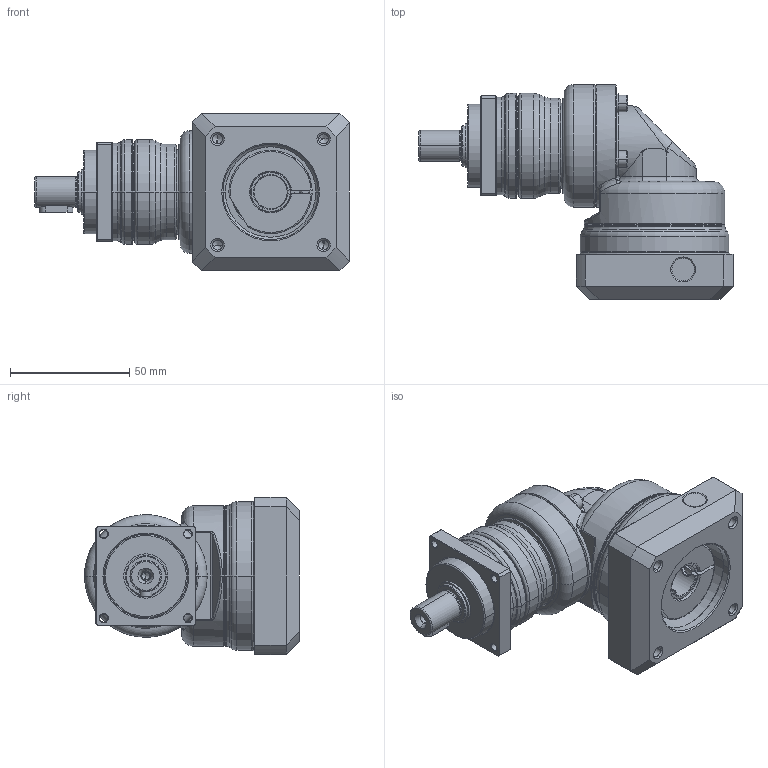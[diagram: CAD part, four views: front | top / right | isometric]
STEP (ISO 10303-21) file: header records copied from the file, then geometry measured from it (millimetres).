
FILE_DESCRIPTION((''),'2;1');
FILE_NAME('PA2R-042_1ST_14-P0411300101_ASM','2016-05-12T',('d01943'),(''),'PRO/ENGINEER BY PARAMETRIC TECHNOLOGY CORPORATION, 2008410','PRO/ENGINEER BY PARAMETRIC TECHNOLOGY CORPORATION, 2008410','');
FILE_SCHEMA(('CONFIG_CONTROL_DESIGN'));
Length unit declared in the file: millimetre
Products named in the file (12): P1327100001; P0250100001; P0350100601; P1349100001; P1017100001; P0713102001; P0503300005; P1350100201; P0411300101; P1702300001; 2111B104015; PA2R-042_1ST_14-P0411300101_ASM
Assembly tree (14 placements, depth 2):
  PA2R-042_1ST_14-P0411300101_ASM
    P1327100001
    P0250100001
    P0350100601
    P1349100001
    P1017100001
    P0713102001
    P0503300005
    P1350100201
    P0411300101
    P1702300001
    2111B104015  x4
Bounding box: 132 x 90.25 x 66 mm (x, y, z)
Volume: 200946.9 mm3; surface area: 77014.3 mm2
Topology: 14 solids, 14 shells, 738 faces, 1622 edges, 937 vertices
Faces by surface type: cylinder 218, cone 214, plane 169, torus 102, bspline 35
Entity records: 23341 total; most frequent: CARTESIAN_POINT 9053, DIRECTION 3159, ORIENTED_EDGE 2772, EDGE_CURVE 1386, AXIS2_PLACEMENT_3D 1332, VERTEX_POINT 817, EDGE_LOOP 721, CIRCLE 702
